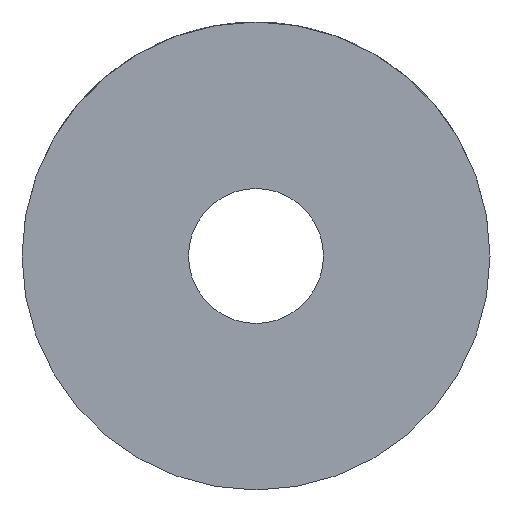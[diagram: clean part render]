
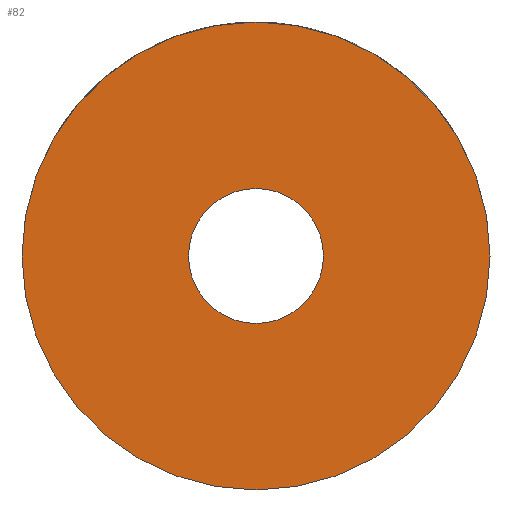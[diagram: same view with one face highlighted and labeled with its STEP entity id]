
A CAD part, front view. The second image highlights one B-rep face of the part: STEP entity #82.
In plain terms, the highlighted planar face has unit normal (0, -1, 0).
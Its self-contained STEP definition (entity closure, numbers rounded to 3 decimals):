
#8 = EDGE_CURVE ( 'NONE', #522, #553, #469, .T. ) ;
#22 = CARTESIAN_POINT ( 'NONE',  ( -34., -37., 217.5 ) ) ;
#27 = CARTESIAN_POINT ( 'NONE',  ( -34., -37., 217.5 ) ) ;
#32 = DIRECTION ( 'NONE',  ( 0., -1., 0. ) ) ;
#36 = CARTESIAN_POINT ( 'NONE',  ( -34., -37., 217.5 ) ) ;
#39 = FACE_OUTER_BOUND ( 'NONE', #504, .T. ) ;
#71 = EDGE_CURVE ( 'NONE', #384, #424, #104, .T. ) ;
#82 = ADVANCED_FACE ( 'NONE', ( #90, #39 ), #311, .F. ) ;
#87 = DIRECTION ( 'NONE',  ( 0., -1., 0. ) ) ;
#90 = FACE_BOUND ( 'NONE', #324, .T. ) ;
#104 = CIRCLE ( 'NONE', #276, 2.15 ) ;
#115 = DIRECTION ( 'NONE',  ( 1., 0., 0. ) ) ;
#124 = AXIS2_PLACEMENT_3D ( 'NONE', #481, #537, #352 ) ;
#141 = EDGE_CURVE ( 'NONE', #424, #384, #325, .T. ) ;
#155 = DIRECTION ( 'NONE',  ( 0., -1., 0. ) ) ;
#172 = DIRECTION ( 'NONE',  ( 0., 1., 0. ) ) ;
#230 = CARTESIAN_POINT ( 'NONE',  ( -34., -37., 219.65 ) ) ;
#239 = CARTESIAN_POINT ( 'NONE',  ( -31.85, -37., 217.5 ) ) ;
#252 = CARTESIAN_POINT ( 'NONE',  ( -41.45, -37., 217.5 ) ) ;
#271 = DIRECTION ( 'NONE',  ( 1., 0., 0. ) ) ;
#276 = AXIS2_PLACEMENT_3D ( 'NONE', #27, #32, #271 ) ;
#290 = CARTESIAN_POINT ( 'NONE',  ( -36.15, -37., 217.5 ) ) ;
#311 = PLANE ( 'NONE',  #350 ) ;
#318 = ORIENTED_EDGE ( 'NONE', *, *, #523, .T. ) ;
#324 = EDGE_LOOP ( 'NONE', ( #382, #570 ) ) ;
#325 = CIRCLE ( 'NONE', #565, 2.15 ) ;
#348 = CARTESIAN_POINT ( 'NONE',  ( -26.55, -37., 217.5 ) ) ;
#350 = AXIS2_PLACEMENT_3D ( 'NONE', #230, #172, #455 ) ;
#352 = DIRECTION ( 'NONE',  ( 1., 0., 0. ) ) ;
#382 = ORIENTED_EDGE ( 'NONE', *, *, #71, .F. ) ;
#384 = VERTEX_POINT ( 'NONE', #239 ) ;
#388 = AXIS2_PLACEMENT_3D ( 'NONE', #22, #155, #115 ) ;
#424 = VERTEX_POINT ( 'NONE', #290 ) ;
#455 = DIRECTION ( 'NONE',  ( -1., 0., 0. ) ) ;
#469 = CIRCLE ( 'NONE', #388, 7.45 ) ;
#481 = CARTESIAN_POINT ( 'NONE',  ( -34., -37., 217.5 ) ) ;
#482 = ORIENTED_EDGE ( 'NONE', *, *, #8, .T. ) ;
#488 = CIRCLE ( 'NONE', #124, 7.45 ) ;
#493 = DIRECTION ( 'NONE',  ( 1., 0., 0. ) ) ;
#504 = EDGE_LOOP ( 'NONE', ( #318, #482 ) ) ;
#522 = VERTEX_POINT ( 'NONE', #252 ) ;
#523 = EDGE_CURVE ( 'NONE', #553, #522, #488, .T. ) ;
#537 = DIRECTION ( 'NONE',  ( 0., -1., 0. ) ) ;
#553 = VERTEX_POINT ( 'NONE', #348 ) ;
#565 = AXIS2_PLACEMENT_3D ( 'NONE', #36, #87, #493 ) ;
#570 = ORIENTED_EDGE ( 'NONE', *, *, #141, .F. ) ;
